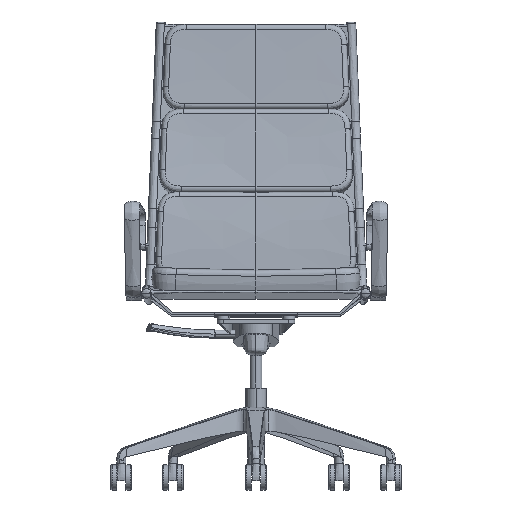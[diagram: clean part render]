
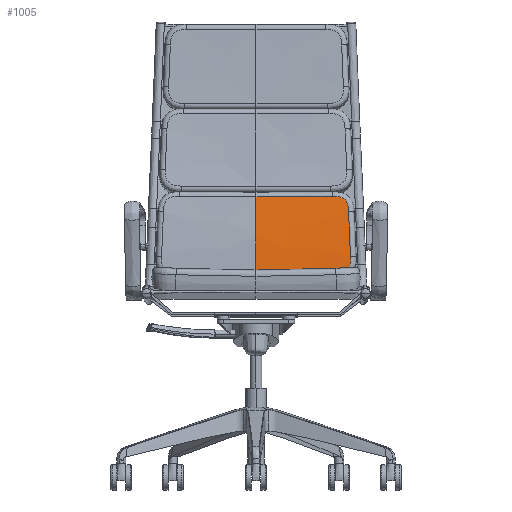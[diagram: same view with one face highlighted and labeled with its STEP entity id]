
A CAD part, front view. The second image highlights one B-rep face of the part: STEP entity #1005.
In plain terms, the highlighted free-form (B-spline) face has degree [3, 3] with [6, 6] control points.
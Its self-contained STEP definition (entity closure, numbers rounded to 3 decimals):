
#254=B_SPLINE_CURVE_WITH_KNOTS('',3,(#13591,#13592,#13593,#13594,#13595,
#13596),.UNSPECIFIED.,.F.,.F.,(4,1,1,4),(11.334,69.393,
138.786,197.356),.UNSPECIFIED.);
#258=B_SPLINE_CURVE_WITH_KNOTS('',3,(#13613,#13614,#13615,#13616),
 .UNSPECIFIED.,.F.,.F.,(4,4),(0.365,187.858),
 .UNSPECIFIED.);
#260=B_SPLINE_CURVE_WITH_KNOTS('',3,(#13634,#13635,#13636,#13637,#13638,
#13639,#13640,#13641,#13642,#13643,#13644,#13645,#13646,#13647,#13648,#13649,
#13650),.UNSPECIFIED.,.F.,.F.,(4,1,1,1,1,1,1,1,1,1,1,1,1,1,4),(-0.028,
4.756,7.308,9.872,13.887,19.707,
25.206,30.615,36.037,43.27,49.07,
52.127,55.287,59.365,66.517),
 .UNSPECIFIED.);
#264=B_SPLINE_CURVE_WITH_KNOTS('',3,(#13677,#13678,#13679,#13680,#13681,
#13682,#13683,#13684,#13685,#13686,#13687,#13688,#13689,#13690),
 .UNSPECIFIED.,.F.,.F.,(4,1,1,1,1,1,1,1,1,1,1,4),(-0.565,8.156,
14.905,21.158,24.084,26.944,33.635,
39.178,45.061,50.737,53.99,62.671),
 .UNSPECIFIED.);
#266=B_SPLINE_CURVE_WITH_KNOTS('',3,(#13697,#13698,#13699,#13700),
 .UNSPECIFIED.,.F.,.F.,(4,4),(0.,183.175),
 .UNSPECIFIED.);
#269=B_SPLINE_CURVE_WITH_KNOTS('',3,(#13711,#13712,#13713,#13714,#13715),
 .UNSPECIFIED.,.F.,.F.,(4,1,4),(0.028,50.627,106.585),
 .UNSPECIFIED.);
#766=B_SPLINE_SURFACE_WITH_KNOTS('',3,3,((#12586,#12587,#12588,#12589,#12590,
#12591),(#12592,#12593,#12594,#12595,#12596,#12597),(#12598,#12599,#12600,
#12601,#12602,#12603),(#12604,#12605,#12606,#12607,#12608,#12609),(#12610,
#12611,#12612,#12613,#12614,#12615),(#12616,#12617,#12618,#12619,#12620,
#12621)),.UNSPECIFIED.,.F.,.F.,.F.,(4,1,1,4),(4,1,1,4),(0.,1.002,
2.001,3.),(-0.208,69.393,
138.786,208.386),.UNSPECIFIED.);
#1005=ADVANCED_FACE('',(#1599),#766,.T.);
#1599=FACE_OUTER_BOUND('',#2193,.T.);
#2193=EDGE_LOOP('',(#2975,#2976,#2977,#2978,#2979,#2980));
#2975=ORIENTED_EDGE('',*,*,#5468,.F.);
#2976=ORIENTED_EDGE('',*,*,#5456,.T.);
#2977=ORIENTED_EDGE('',*,*,#5460,.F.);
#2978=ORIENTED_EDGE('',*,*,#5462,.F.);
#2979=ORIENTED_EDGE('',*,*,#5471,.T.);
#2980=ORIENTED_EDGE('',*,*,#5466,.F.);
#5456=EDGE_CURVE('',#7617,#7619,#254,.T.);
#5460=EDGE_CURVE('',#7618,#7619,#258,.T.);
#5462=EDGE_CURVE('',#7616,#7618,#260,.T.);
#5466=EDGE_CURVE('',#7614,#7615,#264,.T.);
#5468=EDGE_CURVE('',#7617,#7614,#266,.T.);
#5471=EDGE_CURVE('',#7616,#7615,#269,.T.);
#7614=VERTEX_POINT('',#13564);
#7615=VERTEX_POINT('',#13565);
#7616=VERTEX_POINT('',#13566);
#7617=VERTEX_POINT('',#13567);
#7618=VERTEX_POINT('',#13568);
#7619=VERTEX_POINT('',#13569);
#12586=CARTESIAN_POINT('',(231.311,194.097,714.318));
#12587=CARTESIAN_POINT('',(232.293,189.16,691.622));
#12588=CARTESIAN_POINT('',(234.241,181.182,645.879));
#12589=CARTESIAN_POINT('',(237.119,173.512,576.648));
#12590=CARTESIAN_POINT('',(239.009,170.754,530.317));
#12591=CARTESIAN_POINT('',(239.947,169.898,507.101));
#12592=CARTESIAN_POINT('',(205.579,195.402,714.017));
#12593=CARTESIAN_POINT('',(206.449,190.469,691.339));
#12594=CARTESIAN_POINT('',(208.176,182.319,645.671));
#12595=CARTESIAN_POINT('',(210.729,174.294,576.541));
#12596=CARTESIAN_POINT('',(212.403,171.421,530.25));
#12597=CARTESIAN_POINT('',(213.235,170.565,507.054));
#12598=CARTESIAN_POINT('',(154.175,197.571,713.517));
#12599=CARTESIAN_POINT('',(154.825,192.646,690.868));
#12600=CARTESIAN_POINT('',(156.114,184.209,645.324));
#12601=CARTESIAN_POINT('',(158.018,175.595,576.362));
#12602=CARTESIAN_POINT('',(159.268,172.529,530.14));
#12603=CARTESIAN_POINT('',(159.889,171.676,506.976));
#12604=CARTESIAN_POINT('',(77.06,199.523,713.067));
#12605=CARTESIAN_POINT('',(77.384,194.604,690.445));
#12606=CARTESIAN_POINT('',(78.025,185.909,645.012));
#12607=CARTESIAN_POINT('',(78.974,176.764,576.201));
#12608=CARTESIAN_POINT('',(79.596,173.526,530.041));
#12609=CARTESIAN_POINT('',(79.905,172.674,506.905));
#12610=CARTESIAN_POINT('',(25.687,199.956,712.967));
#12611=CARTESIAN_POINT('',(25.795,195.038,690.352));
#12612=CARTESIAN_POINT('',(26.009,186.286,644.942));
#12613=CARTESIAN_POINT('',(26.324,177.024,576.166));
#12614=CARTESIAN_POINT('',(26.532,173.748,530.019));
#12615=CARTESIAN_POINT('',(26.635,172.896,506.89));
#12616=CARTESIAN_POINT('',(0.,199.956,712.967));
#12617=CARTESIAN_POINT('',(0.,195.038,690.352));
#12618=CARTESIAN_POINT('',(0.,186.286,644.942));
#12619=CARTESIAN_POINT('',(0.,177.024,576.166));
#12620=CARTESIAN_POINT('',(0.,173.748,530.019));
#12621=CARTESIAN_POINT('',(0.,172.896,506.89));
#13564=CARTESIAN_POINT('',(182.597,193.927,702.484));
#13565=CARTESIAN_POINT('',(221.448,185.48,665.681));
#13566=CARTESIAN_POINT('',(226.059,173.032,558.826));
#13567=CARTESIAN_POINT('',(0.,197.554,701.706));
#13568=CARTESIAN_POINT('',(187.228,171.515,517.981));
#13569=CARTESIAN_POINT('',(0.,173.36,517.885));
#13591=CARTESIAN_POINT('',(0.,197.554,701.706));
#13592=CARTESIAN_POINT('',(0.,193.603,682.807));
#13593=CARTESIAN_POINT('',(0.,185.774,641.137));
#13594=CARTESIAN_POINT('',(0.,177.514,579.803));
#13595=CARTESIAN_POINT('',(0.,174.286,537.342));
#13596=CARTESIAN_POINT('',(0.,173.36,517.885));
#13613=CARTESIAN_POINT('',(187.228,171.515,517.981));
#13614=CARTESIAN_POINT('',(124.824,172.745,517.916));
#13615=CARTESIAN_POINT('',(62.412,173.36,517.885));
#13616=CARTESIAN_POINT('',(0.,173.36,517.885));
#13634=CARTESIAN_POINT('',(226.059,173.032,558.826));
#13635=CARTESIAN_POINT('',(226.126,172.914,557.221));
#13636=CARTESIAN_POINT('',(226.234,172.737,554.76));
#13637=CARTESIAN_POINT('',(226.28,172.51,551.437));
#13638=CARTESIAN_POINT('',(226.225,172.308,548.372));
#13639=CARTESIAN_POINT('',(225.912,172.051,544.218));
#13640=CARTESIAN_POINT('',(224.924,171.771,539.15));
#13641=CARTESIAN_POINT('',(222.879,171.524,533.898));
#13642=CARTESIAN_POINT('',(219.934,171.348,529.255));
#13643=CARTESIAN_POINT('',(215.723,171.227,524.88));
#13644=CARTESIAN_POINT('',(210.495,171.187,521.527));
#13645=CARTESIAN_POINT('',(205.431,171.215,519.699));
#13646=CARTESIAN_POINT('',(201.524,171.259,518.825));
#13647=CARTESIAN_POINT('',(198.13,171.309,518.333));
#13648=CARTESIAN_POINT('',(193.351,171.393,517.987));
#13649=CARTESIAN_POINT('',(189.612,171.468,517.984));
#13650=CARTESIAN_POINT('',(187.228,171.515,517.981));
#13677=CARTESIAN_POINT('',(182.597,193.927,702.484));
#13678=CARTESIAN_POINT('',(185.493,193.812,702.509));
#13679=CARTESIAN_POINT('',(190.634,193.606,702.571));
#13680=CARTESIAN_POINT('',(197.824,193.146,701.873));
#13681=CARTESIAN_POINT('',(202.946,192.636,700.501));
#13682=CARTESIAN_POINT('',(206.591,192.142,698.873));
#13683=CARTESIAN_POINT('',(210.164,191.564,696.795));
#13684=CARTESIAN_POINT('',(213.955,190.737,693.474));
#13685=CARTESIAN_POINT('',(217.347,189.63,688.48));
#13686=CARTESIAN_POINT('',(219.464,188.559,683.188));
#13687=CARTESIAN_POINT('',(220.481,187.656,678.362));
#13688=CARTESIAN_POINT('',(221.177,186.621,672.545));
#13689=CARTESIAN_POINT('',(221.322,185.953,668.569));
#13690=CARTESIAN_POINT('',(221.448,185.48,665.681));
#13697=CARTESIAN_POINT('',(0.,197.554,701.706));
#13698=CARTESIAN_POINT('',(60.882,197.554,701.706));
#13699=CARTESIAN_POINT('',(121.764,196.345,701.967));
#13700=CARTESIAN_POINT('',(182.597,193.927,702.484));
#13711=CARTESIAN_POINT('',(226.059,173.032,558.826));
#13712=CARTESIAN_POINT('',(225.346,174.282,575.792));
#13713=CARTESIAN_POINT('',(223.819,177.574,611.49));
#13714=CARTESIAN_POINT('',(222.263,182.43,647.059));
#13715=CARTESIAN_POINT('',(221.448,185.48,665.681));
